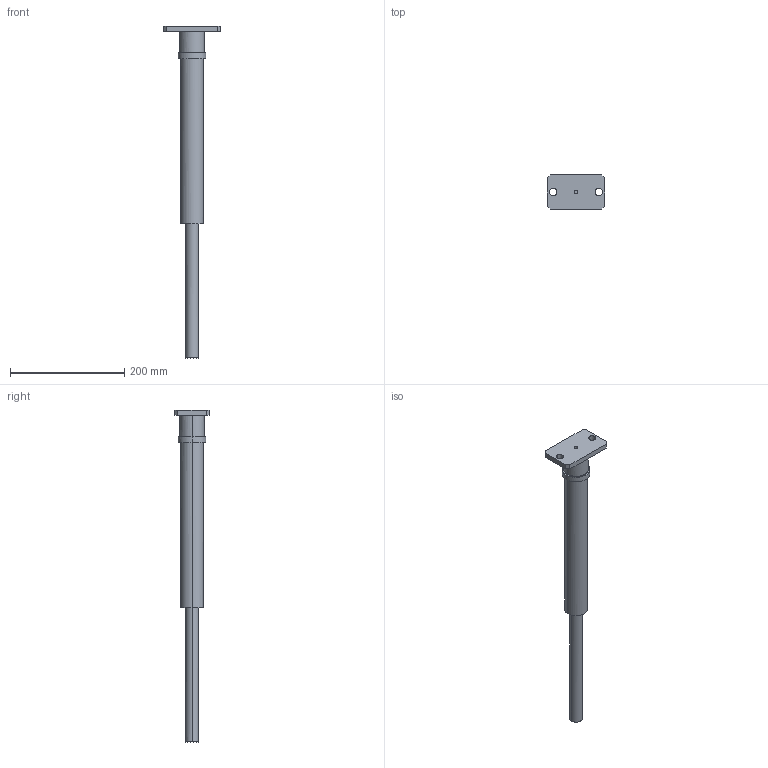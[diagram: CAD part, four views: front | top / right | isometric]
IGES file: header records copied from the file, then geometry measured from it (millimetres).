
Global section: file name: E:\UnigraphicsGraphicData\MISUMI_PRESS-PARTS\IGES\3d_papgu220-290_01674_r00.igs; native system: NX V5.0; preprocessor: UGS NX IGES V5.0; author: MISUMI; date: 20110105.162220; units: millimetre
Bounding box: 100 x 60 x 582 mm (x, y, z)
Surface area: 79250.5 mm2 (no closed solid volume)
Topology: 0 solids, 0 shells, 30 faces, 264 edges, 264 vertices
Faces by surface type: bspline 30
